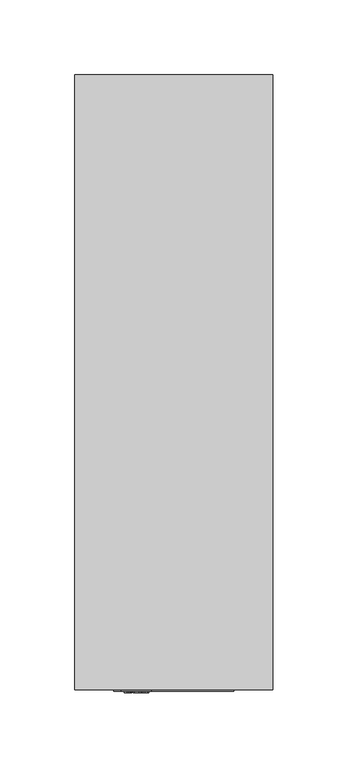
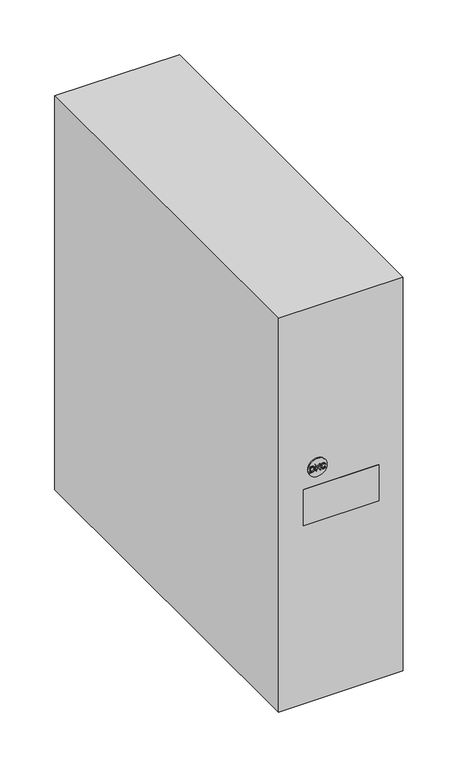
"""IFC4 building model written with IfcOpenShell, lengths in millimetres: proxy geometry, НВО_КНС_Линейно-интерактивныйИБПInfoRPro_DKC : 1500 ВА."""

from ifc_helpers import new_model, si_unit, point, frame, frame_2d, origin, origin_with_axes, place, context, project, spatial, polyline, circle_curve, trimmed, segment, composite_curve, outline, extrude, source, transform, mapped, element, save


def electrical_equipment_f03adf1b(model_context):
    return source(origin(), model_context, "Body", "SweptSolid", [
        extrude(outline(polyline([(257.0, -33.1463789), (257.0, -30.967046), (257.103007, -29.9980448), (257.9520786, -28.7273804), (258.829845, -28.3153525), (260.0460629, -28.154956), (261.4793312, -28.391872), (262.5094008, -29.1055631), (262.9405585, -29.9914229), (263.0273786, -31.0671099), (263.0273786, -33.1463789), (257.0, -33.1463789)]), holes=[polyline([(257.7534223, -32.3929566), (262.2739563, -32.3929566), (262.2739563, -31.0803536), (262.153291, -30.0120243), (261.4852173, -29.2299072), (260.0578351, -28.9083783), (258.9181367, -29.0724537), (257.8623154, -30.0900153), (257.7534223, -31.0597522), (257.7534223, -32.3929566)])]), frame((0.0, -2.0, 0.0), z_axis=(0.0, 1.0, 0.0), x_axis=(0.0, 0.0, 1.0)), (0.0, 0.0, 1.0), 6.0),
        extrude(outline(polyline([(257.0, -26.7422891), (259.0719114, -26.365578), (260.0401768, -25.3502237), (257.0, -23.0487539), (257.0, -22.1275774), (260.5493255, -24.816059), (263.0273786, -22.2217552), (263.0273786, -23.2753692), (260.076965, -26.365578), (263.0273786, -27.1190003), (257.0, -26.7422891)])), frame((0.0, -2.0, 0.0), z_axis=(0.0, 1.0, 0.0), x_axis=(0.0, 0.0, 1.0)), (0.0, 0.0, 1.0), 6.0),
        extrude(outline(polyline([(259.1425447, -17.3245101), (258.0330126, -17.963889), (257.6592445, -19.1168311), (257.9336845, -20.1564657), (258.7628905, -20.8642706), (260.0607782, -21.0916217), (261.180611, -20.8995873), (262.0458694, -20.2337209), (262.3681341, -19.055027), (262.0775073, -18.0367296), (261.3307068, -16.6652655), (262.652139, -17.5165445), (263.1215564, -19.0255964), (262.7588248, -20.4735799), (261.6971173, -21.4881985), (260.0593067, -21.845044), (258.4479835, -21.5294013), (257.3016632, -20.6096963), (256.9058222, -19.0417832), (257.4289504, -17.4643052), (259.1425447, -17.3245101)])), frame((0.0, -2.0, 0.0), z_axis=(0.0, 1.0, 0.0), x_axis=(0.0, 0.0, 1.0)), (0.0, 0.0, 1.0), 6.0),
        extrude(outline(composite_curve([segment(trimmed(circle_curve(frame_2d((260.0, -25.0)), 10.0), [point((260.0, -35.0))], [point((260.0, -15.0))], False, "CARTESIAN"), True, "CONTINUOUS"), segment(trimmed(circle_curve(frame_2d((260.0, -25.0)), 10.0), [point((260.0, -15.0))], [point((260.0, -35.0))], False, "CARTESIAN"), True, "CONTINUOUS")], self_intersect=False)), frame((0.0, -1.0, 0.0), z_axis=(0.0, 1.0, 0.0), x_axis=(0.0, 0.0, 1.0)), (0.0, 0.0, 1.0), 10.0),
        extrude(outline(polyline([(66.0, 0.0), (-66.0, 0.0), (-66.0, 410.0), (66.0, 410.0), (66.0, 0.0)])), origin_with_axes(), (0.0, 0.0, 1.0), 440.0),
        extrude(outline(polyline([(40.0, -1.0), (-40.0, -1.0), (-40.0, 0.0), (40.0, 0.0), (40.0, -1.0)])), frame((0.0, 0.0, 200.0), z_axis=(0.0, 0.0, 1.0), x_axis=(1.0, 0.0, 0.0)), (0.0, 0.0, 1.0), 40.0),
    ])


if __name__ == "__main__":
    model = new_model("IFC4")
    model_context = context("Model", 3, world=origin())
    ifc_project = project(units=[si_unit("LENGTHUNIT", "METRE", prefix="MILLI")], contexts=[model_context])
    site = spatial("IfcSite", under=ifc_project)
    building = spatial("IfcBuilding", under=site)
    placement = place(None, origin())
    electrical_equipment_shape = electrical_equipment_f03adf1b(model_context)
    element("IfcBuildingElementProxy", 1, Name="НВО_КНС_Линейно-интерактивныйИБПInfoRPro_DKC : 1500 ВА", ObjectType="НВО_КНС_Линейно-интерактивныйИБПInfoRPro_DKC : 1500 ВА", at=placement, inside=building, context=model_context, shape_type="MappedRepresentation", body=[
        mapped(electrical_equipment_shape, transform((0.0, 0.0, 0.0), x_axis=(1.0, 0.0, 0.0), y_axis=(0.0, 1.0, 0.0), z_axis=(0.0, 0.0, 1.0))),
    ])
    save(model, "model.ifc")
